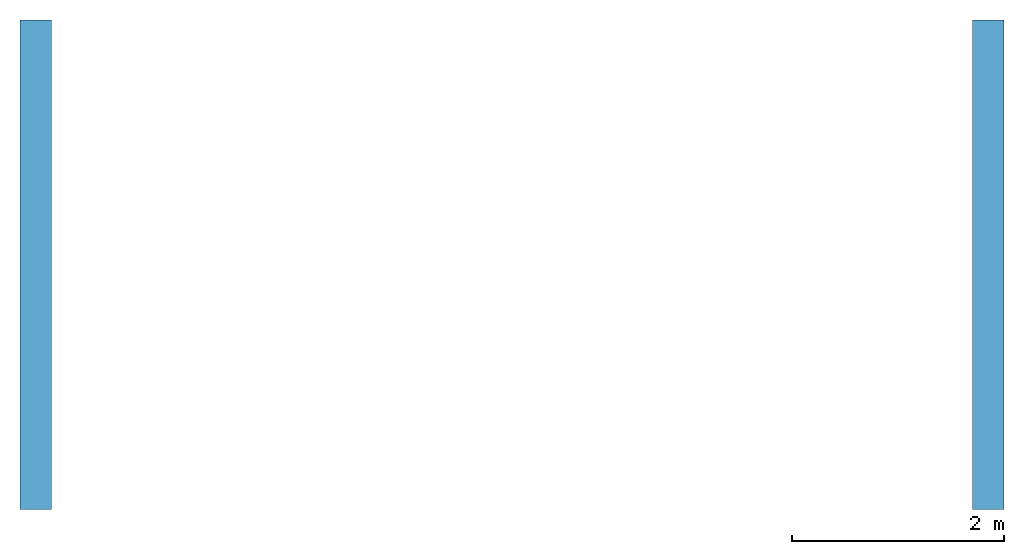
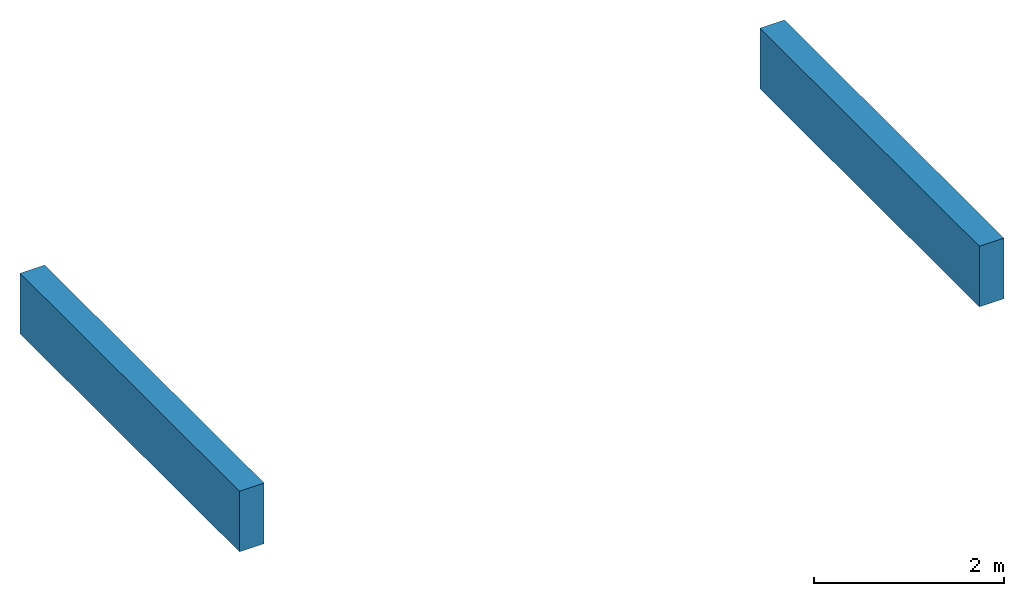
# One storey: 2 walls.
"""IFC2X3 building model written with IfcOpenShell, lengths in millimetres."""

from ifc_helpers import new_model, entity, si_unit, converted_unit, derived_unit, direction, frame, origin_with_axes, place, context, subcontext, project, spatial, faceted_brep, type_object, element, save


model = new_model("IFC2X3")

# Units and contexts
model_context = context("Model", 3, precision=0.01, world=frame((0.0, 4.29681676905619e-09, 0.0)), true_north=direction((4.01073788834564e-13, 1.0)))
plan_context = context("Plan", 3, precision=0.01, world=frame((0.0, 4.29681676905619e-09, 0.0)), true_north=direction((4.01073788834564e-13, 1.0)))
body_context = subcontext(model_context, "Body", "Model", "MODEL_VIEW")
ifc_project = project(units=[converted_unit("PLANEANGLEUNIT", "DEGREE", entity("IfcPositiveLengthMeasure", 0.0174532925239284), si_unit("PLANEANGLEUNIT", "RADIAN"), dimensions=[0, 0, 0, 0, 0, 0, 0]), si_unit("AREAUNIT", "SQUARE_METRE"), si_unit("LENGTHUNIT", "METRE", prefix="MILLI"), si_unit("MASSUNIT", "GRAM", prefix="KILO"), si_unit("POWERUNIT", "WATT"), si_unit("PRESSUREUNIT", "PASCAL", prefix="KILO"), si_unit("FORCEUNIT", "NEWTON", prefix="KILO"), si_unit("ELECTRICVOLTAGEUNIT", "VOLT"), si_unit("ELECTRICCURRENTUNIT", "AMPERE"), si_unit("THERMODYNAMICTEMPERATUREUNIT", "DEGREE_CELSIUS"), si_unit("TIMEUNIT", "SECOND"), si_unit("VOLUMEUNIT", "CUBIC_METRE"), derived_unit("LINEARVELOCITYUNIT", [(si_unit("LENGTHUNIT", "METRE"), 1), (si_unit("TIMEUNIT", "SECOND"), -1)]), derived_unit("VOLUMETRICFLOWRATEUNIT", [(si_unit("VOLUMEUNIT", "CUBIC_METRE"), 1), (si_unit("TIMEUNIT", "SECOND"), -1)]), derived_unit("THERMALTRANSMITTANCEUNIT", [(si_unit("POWERUNIT", "WATT"), 1), (si_unit("THERMODYNAMICTEMPERATUREUNIT", "KELVIN"), -1), (si_unit("AREAUNIT", "SQUARE_METRE"), -1)]), derived_unit("SOUNDPRESSUREUNIT", [(si_unit("PRESSUREUNIT", "PASCAL"), 1)])], contexts=[model_context, plan_context])

# Site, building, storey
site_placement = place(None, frame((0.0, -4.29681676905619e-09, 0.0), z_axis=(0.0, 0.0, 1.0), x_axis=(1.0, 0.0, 0.0)))
site = spatial("IfcSite", under=ifc_project, at=site_placement, Name="Gardermoen", CompositionType="ELEMENT")
building_placement = place(site_placement, frame((0.0, 4.29681676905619e-09, 0.0), z_axis=(0.0, 0.0, 1.0), x_axis=(1.0, 0.0, 0.0)))
building = spatial("IfcBuilding", under=site, at=building_placement, Name="TS", CompositionType="ELEMENT")
storey_placement = place(building_placement, origin_with_axes())
storey = spatial("IfcBuildingStorey", under=building, at=storey_placement, Name="B", CompositionType="ELEMENT", Elevation=0.0)

# Walls
wall_type = type_object("IfcWallType", Name="7480*300", PredefinedType="NOTDEFINED")
for number, where, z_axis, x_axis in (
    (1, (596499.939293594, 400800.001851, 200040.0), (0.0, 0.0, 1.0), (0.0, 1.0, 0.0)),
    (2, (605499.939293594, 400800.001007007, 200040.0), (0.0, 0.0, 1.0), (0.0, 1.0, 0.0)),
):
    element("IfcWall", number, at=place(storey_placement, frame(where, z_axis=z_axis, x_axis=x_axis)), inside=storey, type_object=wall_type, Name="PLASSTØPTVEGG", ObjectType="7480*300", context=body_context, shape_type="Brep", body=[
        faceted_brep([(-2.79396772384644e-09, 150.0, 2960.0), (4624.99814912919, 149.999999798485, 2960.0), (4624.99814912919, 149.999999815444, 3740.0), (-2.79396772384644e-09, 150.0, 3740.0), (4624.99814912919, -150.000000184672, 3740.0), (2.73576006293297e-09, -150.000000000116, 3740.0), (4624.99814912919, -150.000000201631, 2960.0), (2.73576006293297e-09, -150.000000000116, 2960.0)], [[[0, 1, 2, 3]], [[2, 4, 5, 3]], [[4, 6, 7, 5]], [[7, 0, 3, 5]], [[6, 4, 2, 1]], [[1, 0, 7, 6]]], orient=[[False], [False], [False], [False], [False], [False]]),
    ])

save(model, "model.ifc")
